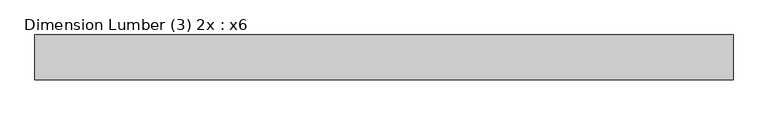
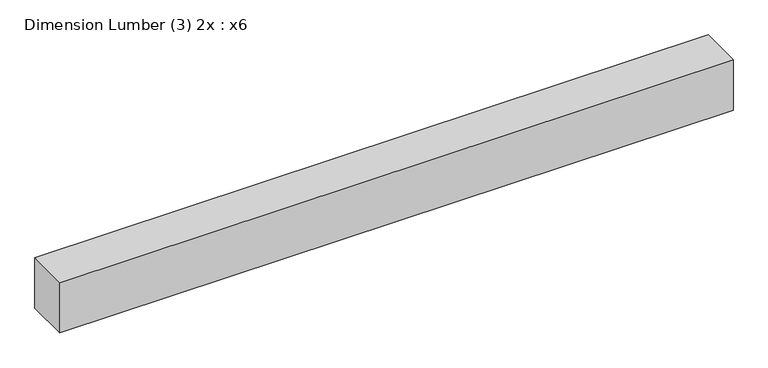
"""IFC4 building model written with IfcOpenShell, lengths in millimetres: beam geometry, Dimension Lumber (3) 2x : x6."""

from ifc_helpers import new_model, si_unit, frame, origin, place, context, project, spatial, polyline, outline, extrude, source, transform, mapped, element, save


def dimension_lumber_3_2x_x6_fe3bc0c2(model_context):
    return source(origin(), model_context, "Body", "SweptSolid", [
        extrude(outline(polyline([(746.7854, -57.15), (-1024.8646, -57.15), (-1024.8646, 57.15), (746.7854, 57.15), (746.7854, -57.15)])), frame((0.0, 0.0, -69.85), z_axis=(0.0, 0.0, 1.0), x_axis=(1.0, 0.0, 0.0)), (0.0, 0.0, 1.0), 139.7),
    ])


if __name__ == "__main__":
    model = new_model("IFC4")
    model_context = context("Model", 3, world=origin())
    ifc_project = project(units=[si_unit("LENGTHUNIT", "METRE", prefix="MILLI")], contexts=[model_context])
    site = spatial("IfcSite", under=ifc_project)
    building = spatial("IfcBuilding", under=site)
    placement = place(None, origin())
    dimension_lumber_3_2x_x6_shape = dimension_lumber_3_2x_x6_fe3bc0c2(model_context)
    element("IfcBeam", 1, ObjectType="Dimension Lumber (3) 2x : x6", at=placement, inside=building, context=model_context, shape_type="MappedRepresentation", body=[
        mapped(dimension_lumber_3_2x_x6_shape, transform((0.0, 0.0, 0.0), x_axis=(1.0, 0.0, 0.0), y_axis=(0.0, 1.0, 0.0), z_axis=(0.0, 0.0, 1.0))),
    ])
    save(model, "model.ifc")
